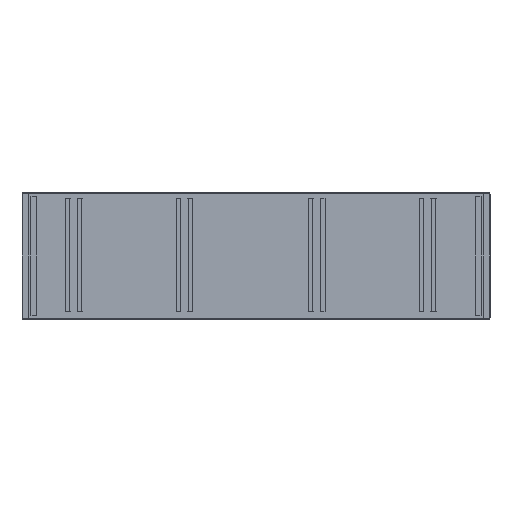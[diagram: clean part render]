
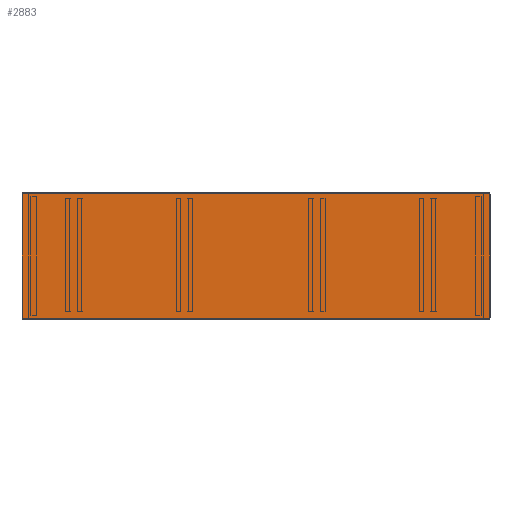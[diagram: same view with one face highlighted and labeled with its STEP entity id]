
A CAD part, left-side view. The second image highlights one B-rep face of the part: STEP entity #2883.
In plain terms, the highlighted planar face has unit normal (-1, 0, 0).
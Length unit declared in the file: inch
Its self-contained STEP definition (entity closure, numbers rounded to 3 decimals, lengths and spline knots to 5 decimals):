
#290=DIRECTION('',(0.,1.,0.));
#291=VECTOR('',#290,74.);
#292=CARTESIAN_POINT('',(-0.06,-37.,-9.871));
#293=LINE('',#292,#291);
#320=DIRECTION('',(0.,-1.,0.));
#321=VECTOR('',#320,74.);
#322=CARTESIAN_POINT('',(-0.06,37.,9.871));
#323=LINE('',#322,#321);
#1099=DIRECTION('',(0.,0.,-1.));
#1100=VECTOR('',#1099,19.742);
#1101=CARTESIAN_POINT('',(-0.06,37.,9.871));
#1102=LINE('',#1101,#1100);
#1103=DIRECTION('',(0.,0.,1.));
#1104=VECTOR('',#1103,19.742);
#1105=CARTESIAN_POINT('',(-0.06,-37.,-9.871));
#1106=LINE('',#1105,#1104);
#1319=CARTESIAN_POINT('',(-0.06,37.,9.871));
#1320=CARTESIAN_POINT('',(-0.06,37.,-9.871));
#1321=VERTEX_POINT('',#1319);
#1322=VERTEX_POINT('',#1320);
#1323=CARTESIAN_POINT('',(-0.06,-37.,-9.871));
#1324=CARTESIAN_POINT('',(-0.06,-37.,9.871));
#1325=VERTEX_POINT('',#1323);
#1326=VERTEX_POINT('',#1324);
#2872=CARTESIAN_POINT('',(-0.06,0.,0.));
#2873=DIRECTION('',(-1.,0.,0.));
#2874=DIRECTION('',(0.,0.,1.));
#2875=AXIS2_PLACEMENT_3D('',#2872,#2873,#2874);
#2876=PLANE('',#2875);
#2877=ORIENTED_EDGE('',*,*,#1772,.T.);
#2878=ORIENTED_EDGE('',*,*,#1800,.F.);
#2879=ORIENTED_EDGE('',*,*,#1830,.T.);
#2880=ORIENTED_EDGE('',*,*,#2386,.F.);
#2881=EDGE_LOOP('',(#2877,#2878,#2879,#2880));
#2882=FACE_OUTER_BOUND('',#2881,.F.);
#2883=ADVANCED_FACE('',(#2882),#2876,.T.);
#1772=EDGE_CURVE('',#1325,#1322,#293,.T.);
#1800=EDGE_CURVE('',#1321,#1322,#1102,.T.);
#1830=EDGE_CURVE('',#1321,#1326,#323,.T.);
#2386=EDGE_CURVE('',#1325,#1326,#1106,.T.);
